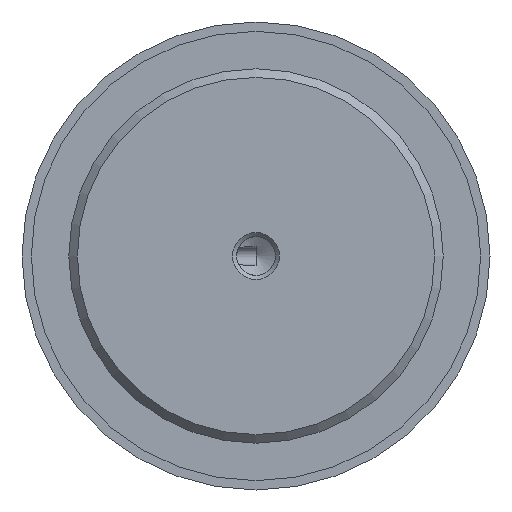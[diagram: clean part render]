
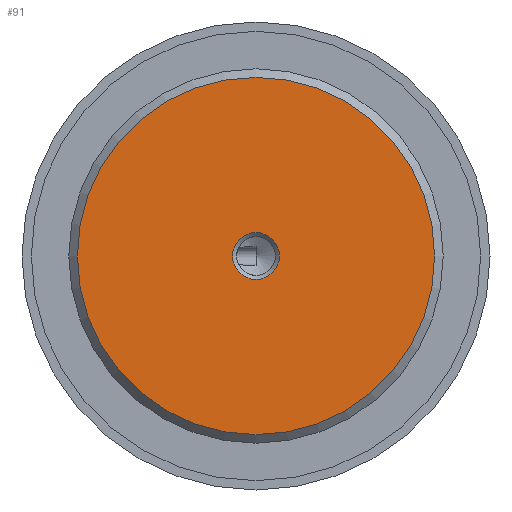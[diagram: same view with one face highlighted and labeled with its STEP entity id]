
A CAD part, front view. The second image highlights one B-rep face of the part: STEP entity #91.
In plain terms, the highlighted planar face has unit normal (0, -1, 0).
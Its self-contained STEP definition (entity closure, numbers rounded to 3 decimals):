
#91 = ADVANCED_FACE( '', ( #171, #172 ), #173, .F. );
#171 = FACE_BOUND( '', #294, .T. );
#172 = FACE_OUTER_BOUND( '', #295, .T. );
#173 = PLANE( '', #296 );
#294 = EDGE_LOOP( '', ( #479 ) );
#295 = EDGE_LOOP( '', ( #480 ) );
#296 = AXIS2_PLACEMENT_3D( '', #481, #482, #483 );
#479 = ORIENTED_EDGE( '', *, *, #791, .F. );
#480 = ORIENTED_EDGE( '', *, *, #822, .T. );
#481 = CARTESIAN_POINT( '', ( 19.08, 0., 0. ) );
#482 = DIRECTION( '', ( 0., 1., 0. ) );
#483 = DIRECTION( '', ( 0., 0., 1. ) );
#791 = EDGE_CURVE( '', #920, #920, #921, .T. );
#822 = EDGE_CURVE( '', #976, #976, #977, .T. );
#920 = VERTEX_POINT( '', #1154 );
#921 = CIRCLE( '', #1155, 2.5 );
#976 = VERTEX_POINT( '', #1297 );
#977 = CIRCLE( '', #1298, 19.08 );
#1154 = CARTESIAN_POINT( '', ( 2.5, 0., 0. ) );
#1155 = AXIS2_PLACEMENT_3D( '', #1541, #1542, #1543 );
#1297 = CARTESIAN_POINT( '', ( 0., 0., -19.08 ) );
#1298 = AXIS2_PLACEMENT_3D( '', #1578, #1579, #1580 );
#1541 = CARTESIAN_POINT( '', ( 0., 0., 0. ) );
#1542 = DIRECTION( '', ( 0., -1., 0. ) );
#1543 = DIRECTION( '', ( 1., 0., 0. ) );
#1578 = CARTESIAN_POINT( '', ( 0., 0., 0. ) );
#1579 = DIRECTION( '', ( 0., -1., 0. ) );
#1580 = DIRECTION( '', ( 0., 0., -1. ) );
